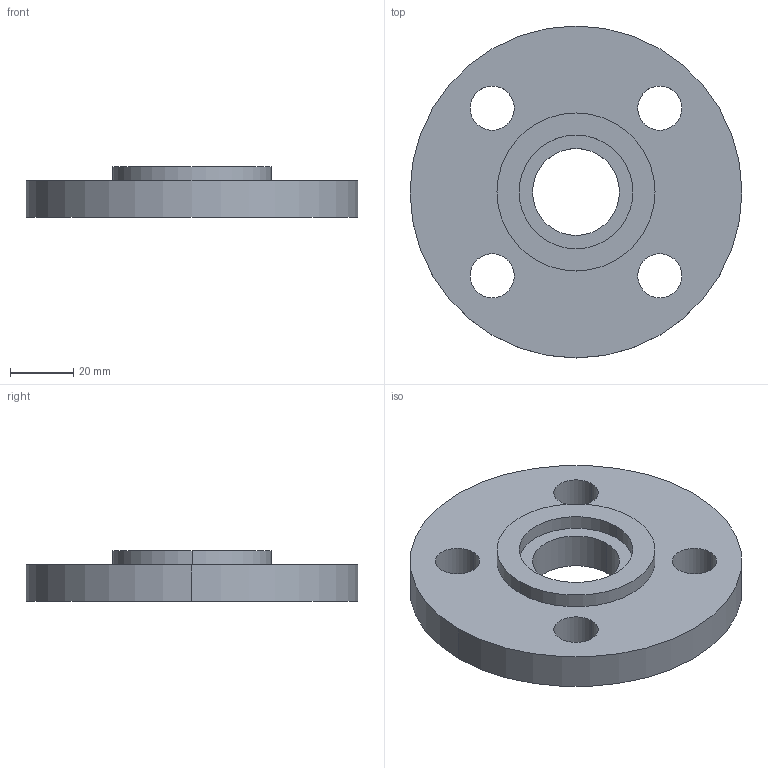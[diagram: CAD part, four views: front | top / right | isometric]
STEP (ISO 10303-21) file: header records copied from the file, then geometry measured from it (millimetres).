
FILE_DESCRIPTION (( 'STEP AP214' ), '1' );
FILE_NAME ('PN40 DN20 Type 01 - Type C Face.STEP', '2018-12-29T18:34:06', ( '' ), ( '' ), 'SwSTEP 2.0', 'SolidWorks 2019', '' );
FILE_SCHEMA (( 'AUTOMOTIVE_DESIGN' ));
Length unit declared in the file: millimetre
Products named in the file (1): PN40 DN20 Type 01 - Type C Face
Bounding box: 105 x 105 x 16 mm (x, y, z)
Volume: 89922.3 mm3; surface area: 22924.6 mm2
Topology: 1 solids, 1 shells, 20 faces, 48 edges, 32 vertices
Faces by surface type: cylinder 16, plane 4
Entity records: 658 total; most frequent: DIRECTION 122, CARTESIAN_POINT 101, ORIENTED_EDGE 96, AXIS2_PLACEMENT_3D 53, EDGE_CURVE 48, VERTEX_POINT 32, CIRCLE 32, EDGE_LOOP 32
